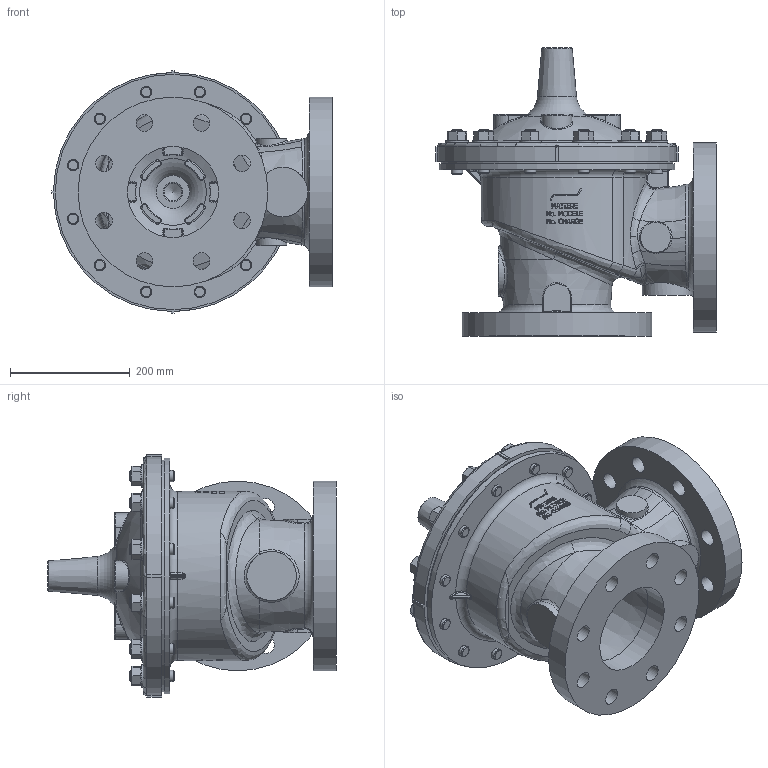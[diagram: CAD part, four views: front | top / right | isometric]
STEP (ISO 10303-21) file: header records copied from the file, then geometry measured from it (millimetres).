
FILE_DESCRIPTION(/* description */ (''),/* implementation_level */ '2;1');
FILE_NAME(/* name */ 'G:\Doc_Liberes\SymbolesCAD\Modeles_3D\FichierSTP\VanneDeBase\AE150-40FF.stp',/* time_stamp */ '2022-05-24T15:25:10+02:00',/* author */ ('sylvain'),/* organization */ (''),/* preprocessor_version */ 'ST-DEVELOPER v18.1',/* originating_system */ 'Autodesk Inventor 2022',/* authorisation */ '');
FILE_SCHEMA (('AUTOMOTIVE_DESIGN { 1 0 10303 214 3 1 1 }'));
Products named in the file (1): AE150-25FF_Simplifier_2
Bounding box: 469.7 x 482.6 x 406 mm (x, y, z)
Volume: 12487603.3 mm3; surface area: 1519982.3 mm2
Topology: 1 solids, 1 shells, 1949 faces, 5070 edges, 3257 vertices
Faces by surface type: plane 957, cone 386, bspline 350, cylinder 176, torus 78, sphere 2
Full cylindrical faces by diameter (mm): 19.05 x36, 22 x12, 28 x16, 29.5 x1, 32.64 x1, 37.313 x12, 50.8 x2, 55.6 x1, 82.55 x1, 152.4 x2, 167.83 x1, 190.5 x1, 195 x1, 200.28 x1, 317.5 x2, 387.058 x1, 387.3 x1, 393.7 x1
Entity records: 75270 total; most frequent: CARTESIAN_POINT 28267, ORIENTED_EDGE 10134, DIRECTION 8378, EDGE_CURVE 5067, VERTEX_POINT 3257, AXIS2_PLACEMENT_3D 3197, EDGE_LOOP 2144, LINE 1984
